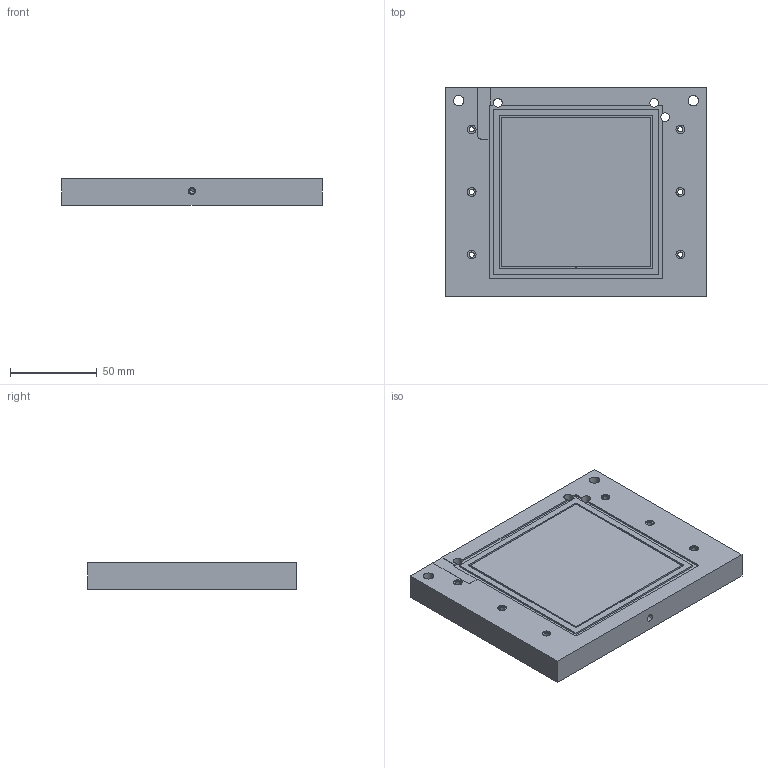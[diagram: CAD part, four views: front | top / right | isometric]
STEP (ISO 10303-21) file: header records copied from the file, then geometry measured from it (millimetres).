
FILE_DESCRIPTION(('CATIA V5 STEP Exchange'),'2;1');
FILE_NAME('D:\CATIA\ATLAS\Atlas_Maarten\atlas_upgrade_maarten\Ass.Module\STP\Outil_Sup_2.stp','2010-09-02T14:43:48+00:00',('none'),('none'),'CATIA Version 5 Release 18 SP 4 (IN-10)','CATIA V5 STEP AP203','none');
FILE_SCHEMA(('CONFIG_CONTROL_DESIGN'));
Length unit declared in the file: millimetre
Products named in the file (1): Outil_Sup_2
Bounding box: 150 x 120 x 15 mm (x, y, z)
Volume: 266048.9 mm3; surface area: 47598.8 mm2
Topology: 1 solids, 1 shells, 92 faces, 250 edges, 163 vertices
Faces by surface type: cylinder 49, plane 39, cone 4
Entity records: 2759 total; most frequent: ORIENTED_EDGE 496, CARTESIAN_POINT 493, DIRECTION 364, EDGE_CURVE 248, AXIS2_PLACEMENT_3D 165, VERTEX_POINT 163, VECTOR 141, LINE 141
